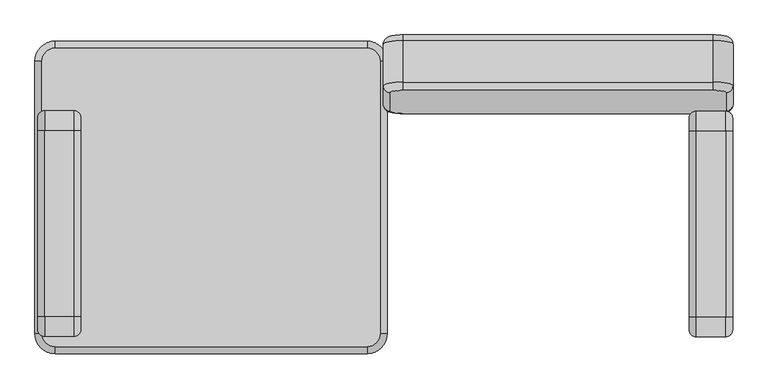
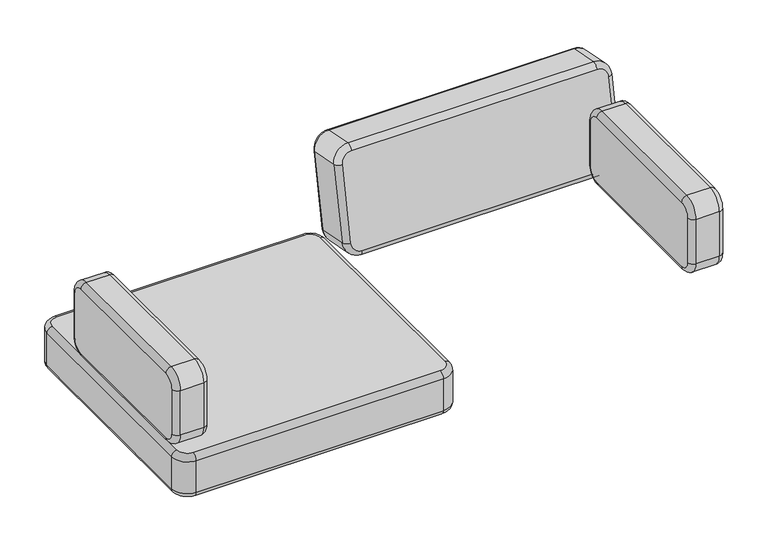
"""IFC4 building model written with IfcOpenShell, lengths in millimetres: furniture geometry, Fredericia - EJ220 Sofa 2 seater 86 - 2052 : Fredericia - EJ220 Sofa 2 seater 86 - 2052."""

from ifc_helpers import new_model, si_unit, point, frame, origin, place, context, project, spatial, circle_curve, ellipse_curve, trimmed, source, transform, mapped, element, save
from ifc_brep_helpers import plane_surface, cylinder_surface, revolved_surface, advanced_brep


def furniture_298e50f7(model_context):
    return source(origin(), model_context, "Body", "AdvancedBrep", [
        advanced_brep(
        [(-852.1555128, 67.7, 290.0), (-852.1555128, 743.0641303, 290.0), (-819.4876929, 775.7319503, 290.0), (-45.0, 775.7319503, 290.0), (-12.3321801, 743.0641303, 290.0), (-12.3321801, 67.7, 290.0), (-45.0, 35.0321801, 290.0), (-819.4876929, 35.0321801, 290.0), (-852.1555128, 743.0641303, 429.8211901), (-852.1555128, 67.7, 429.8211901), (-819.4876929, 35.0321801, 429.8211901), (-45.0, 35.0321801, 429.8211901), (-12.3321801, 67.7, 429.8211901), (-12.3321801, 743.0641303, 429.8211901), (-45.0, 775.7319503, 429.8211901), (-819.4876929, 775.7319503, 429.8211901), (-869.4876929, 743.0641303, 412.4890101), (-869.4876929, 743.0641303, 307.3273289), (-869.4876929, 67.7, 307.3273289), (-869.4876929, 67.7, 412.4890101), (-819.4876929, 17.7, 412.4890101), (-819.4876929, 17.7, 307.3273289), (-45.0, 17.7, 307.3273289), (-45.0, 17.7, 412.4890101), (5.0, 67.7, 412.4890101), (5.0, 67.7, 307.3273289), (5.0, 743.0641303, 307.3273289), (5.0, 743.0641303, 412.4890101), (-45.0, 793.0641303, 412.4890101), (-45.0, 793.0641303, 307.3273289), (-819.4876929, 793.0641303, 307.3273289), (-819.4876929, 793.0641303, 412.4890101)],
        [
            (0, 1),
            (1, 2, circle_curve(frame((-819.4876929, 743.0641303, 290.0), z_axis=(0.0, 0.0, -1.0), x_axis=(0.0, 1.0, 0.0)), 32.6678199)),
            (2, 3),
            (3, 4, circle_curve(frame((-45.0, 743.0641303, 290.0), z_axis=(0.0, 0.0, -1.0), x_axis=(1.0, 0.0, 0.0)), 32.6678199)),
            (4, 5),
            (5, 6, circle_curve(frame((-45.0, 67.7, 290.0), z_axis=(0.0, 0.0, -1.0), x_axis=(0.0, -1.0, 0.0)), 32.6678199)),
            (6, 7),
            (7, 0, circle_curve(frame((-819.4876929, 67.7, 290.0), z_axis=(0.0, 0.0, -1.0), x_axis=(-1.0, 0.0, 0.0)), 32.6678199)),
            (8, 9),
            (9, 10, circle_curve(frame((-819.4876929, 67.7, 429.8211901), z_axis=(0.0, 0.0, 1.0), x_axis=(-1.0, 0.0, 0.0)), 32.6678199)),
            (10, 11),
            (11, 12, circle_curve(frame((-45.0, 67.7, 429.8211901), z_axis=(0.0, 0.0, 1.0), x_axis=(0.0, -1.0, 0.0)), 32.6678199)),
            (12, 13),
            (13, 14, circle_curve(frame((-45.0, 743.0641303, 429.8211901), z_axis=(0.0, 0.0, 1.0), x_axis=(1.0, 0.0, 0.0)), 32.6678199)),
            (14, 15),
            (15, 8, circle_curve(frame((-819.4876929, 743.0641303, 429.8211901), z_axis=(0.0, 0.0, 1.0), x_axis=(0.0, 1.0, 0.0)), 32.6678199)),
            (16, 17),
            (17, 18),
            (18, 19),
            (19, 16),
            (20, 21),
            (21, 22),
            (22, 23),
            (23, 20),
            (24, 25),
            (25, 26),
            (26, 27),
            (27, 24),
            (28, 29),
            (29, 30),
            (30, 31),
            (31, 28),
            (17, 1, circle_curve(frame((-852.1555128, 743.0641303, 307.3273289), z_axis=(0.0, -1.0, 0.0), x_axis=(1.0, 0.0, 0.0)), 17.3321801)),
            (0, 18, circle_curve(frame((-852.1555128, 67.7, 307.3273289), z_axis=(0.0, 1.0, 0.0), x_axis=(1.0, 0.0, 0.0)), 17.3321801)),
            (19, 9, circle_curve(frame((-852.1555128, 67.7, 412.4890101), z_axis=(0.0, 1.0, 0.0), x_axis=(1.0, 0.0, 0.0)), 17.3321801)),
            (8, 16, circle_curve(frame((-852.1555128, 743.0641303, 412.4890101), z_axis=(0.0, -1.0, 0.0), x_axis=(1.0, 0.0, 0.0)), 17.3321801)),
            (21, 7, circle_curve(frame((-819.4876929, 35.0321801, 307.3273289), z_axis=(1.0, 0.0, 0.0), x_axis=(0.0, 1.0, 0.0)), 17.3321801)),
            (6, 22, circle_curve(frame((-45.0, 35.0321801, 307.3273289), z_axis=(-1.0, 0.0, 0.0), x_axis=(0.0, 1.0, 0.0)), 17.3321801)),
            (23, 11, circle_curve(frame((-45.0, 35.0321801, 412.4890101), z_axis=(-1.0, 0.0, 0.0), x_axis=(0.0, 1.0, 0.0)), 17.3321801)),
            (10, 20, circle_curve(frame((-819.4876929, 35.0321801, 412.4890101), z_axis=(1.0, 0.0, 0.0), x_axis=(0.0, 1.0, 0.0)), 17.3321801)),
            (25, 5, circle_curve(frame((-12.3321801, 67.7, 307.3273289), z_axis=(0.0, 1.0, 0.0), x_axis=(-1.0, 0.0, 0.0)), 17.3321801)),
            (4, 26, circle_curve(frame((-12.3321801, 743.0641303, 307.3273289), z_axis=(0.0, -1.0, 0.0), x_axis=(-1.0, 0.0, 0.0)), 17.3321801)),
            (27, 13, circle_curve(frame((-12.3321801, 743.0641303, 412.4890101), z_axis=(0.0, -1.0, 0.0), x_axis=(-1.0, 0.0, 0.0)), 17.3321801)),
            (12, 24, circle_curve(frame((-12.3321801, 67.7, 412.4890101), z_axis=(0.0, 1.0, 0.0), x_axis=(-1.0, 0.0, 0.0)), 17.3321801)),
            (29, 3, circle_curve(frame((-45.0, 775.7319503, 307.3273289), z_axis=(-1.0, 0.0, 0.0), x_axis=(0.0, -1.0, 0.0)), 17.3321801)),
            (2, 30, circle_curve(frame((-819.4876929, 775.7319503, 307.3273289), z_axis=(1.0, 0.0, 0.0), x_axis=(0.0, -1.0, 0.0)), 17.3321801)),
            (31, 15, circle_curve(frame((-819.4876929, 775.7319503, 412.4890101), z_axis=(1.0, 0.0, 0.0), x_axis=(0.0, -1.0, 0.0)), 17.3321801)),
            (14, 28, circle_curve(frame((-45.0, 775.7319503, 412.4890101), z_axis=(-1.0, 0.0, 0.0), x_axis=(0.0, -1.0, 0.0)), 17.3321801)),
            (17, 30, circle_curve(frame((-819.4876929, 743.0641303, 307.3273289), z_axis=(0.0, 0.0, -1.0), x_axis=(0.0, 1.0, 0.0)), 50.0)),
            (16, 31, circle_curve(frame((-819.4876929, 743.0641303, 412.4890101), z_axis=(0.0, 0.0, -1.0), x_axis=(0.0, 1.0, 0.0)), 50.0)),
            (21, 18, circle_curve(frame((-819.4876929, 67.7, 307.3273289), z_axis=(0.0, 0.0, -1.0), x_axis=(-1.0, 0.0, 0.0)), 50.0)),
            (20, 19, circle_curve(frame((-819.4876929, 67.7, 412.4890101), z_axis=(0.0, 0.0, -1.0), x_axis=(-1.0, 0.0, 0.0)), 50.0)),
            (25, 22, circle_curve(frame((-45.0, 67.7, 307.3273289), z_axis=(0.0, 0.0, -1.0), x_axis=(0.0, -1.0, 0.0)), 50.0)),
            (24, 23, circle_curve(frame((-45.0, 67.7, 412.4890101), z_axis=(0.0, 0.0, -1.0), x_axis=(0.0, -1.0, 0.0)), 50.0)),
            (29, 26, circle_curve(frame((-45.0, 743.0641303, 307.3273289), z_axis=(0.0, 0.0, -1.0), x_axis=(1.0, 0.0, 0.0)), 50.0)),
            (28, 27, circle_curve(frame((-45.0, 743.0641303, 412.4890101), z_axis=(0.0, 0.0, -1.0), x_axis=(1.0, 0.0, 0.0)), 50.0)),
        ],
        [
            plane_surface(frame((401.9530797, 37.7, 290.0), z_axis=(0.0, 0.0, -1.0), x_axis=(-1.0, 0.0, 0.0))),
            plane_surface(frame((401.9530797, 37.7, 429.8211901), z_axis=(0.0, 0.0, 1.0), x_axis=(1.0, 0.0, 0.0))),
            plane_surface(frame((-869.4876929, 743.0641303, 307.3273289), z_axis=(-1.0, 0.0, 0.0), x_axis=(0.0, -1.0, 0.0))),
            plane_surface(frame((-819.4876929, 17.7, 307.3273289), z_axis=(0.0, -1.0, 0.0), x_axis=(1.0, 0.0, 0.0))),
            plane_surface(frame((5.0, 67.7, 307.3273289), z_axis=(1.0, 0.0, 0.0), x_axis=(0.0, 1.0, 0.0))),
            plane_surface(frame((-45.0, 793.0641303, 307.3273289), z_axis=(0.0, 1.0, 0.0), x_axis=(-1.0, 0.0, 0.0))),
            cylinder_surface(frame((-852.1555128, 743.0641303, 307.3273289), z_axis=(0.0, 1.0, 0.0), x_axis=(1.0, 0.0, 0.0)), 17.3321801),
            cylinder_surface(frame((-852.1555128, 743.0641303, 412.4890101), z_axis=(0.0, 1.0, 0.0), x_axis=(1.0, 0.0, 0.0)), 17.3321801),
            cylinder_surface(frame((-819.4876929, 35.0321801, 307.3273289), z_axis=(-1.0, 0.0, 0.0), x_axis=(0.0, 1.0, 0.0)), 17.3321801),
            cylinder_surface(frame((-819.4876929, 35.0321801, 412.4890101), z_axis=(-1.0, 0.0, 0.0), x_axis=(0.0, 1.0, 0.0)), 17.3321801),
            cylinder_surface(frame((-12.3321801, 67.7, 307.3273289), z_axis=(0.0, -1.0, 0.0), x_axis=(-1.0, 0.0, 0.0)), 17.3321801),
            cylinder_surface(frame((-12.3321801, 67.7, 412.4890101), z_axis=(0.0, -1.0, 0.0), x_axis=(-1.0, 0.0, 0.0)), 17.3321801),
            cylinder_surface(frame((-45.0, 775.7319503, 307.3273289), z_axis=(1.0, 0.0, 0.0), x_axis=(0.0, -1.0, 0.0)), 17.3321801),
            cylinder_surface(frame((-45.0, 775.7319503, 412.4890101), z_axis=(1.0, 0.0, 0.0), x_axis=(0.0, -1.0, 0.0)), 17.3321801),
            revolved_surface(trimmed(ellipse_curve(frame((-819.4876929, 775.7319503, 307.3273289), z_axis=(1.0, 0.0, 0.0), x_axis=(0.0, -1.0, 0.0)), 17.3321801, 17.3321801), [point((-819.4876929, 775.7319503, 289.9951488))], [point((-819.4876929, 793.0641303, 307.3273289))], True, "CARTESIAN"), (-819.4876929, 743.0641303, 474.7169816), (0.0, 0.0, 1.0)),
            cylinder_surface(frame((-819.4876929, 743.0641303, 474.7169816), z_axis=(0.0, 0.0, 1.0), x_axis=(0.0, 1.0, 0.0)), 50.0),
            revolved_surface(trimmed(ellipse_curve(frame((-819.4876929, 775.7319503, 412.4890101), z_axis=(1.0, 0.0, 0.0), x_axis=(0.0, -1.0, 0.0)), 17.3321801, 17.3321801), [point((-819.4876929, 793.0641303, 412.4890101))], [point((-819.4876929, 775.7319503, 429.8211901))], True, "CARTESIAN"), (-819.4876929, 743.0641303, 474.7169816), (0.0, 0.0, 1.0)),
            revolved_surface(trimmed(ellipse_curve(frame((-852.1555128, 67.7, 307.3273289), z_axis=(0.0, 1.0, 0.0), x_axis=(1.0, 0.0, 0.0)), 17.3321801, 17.3321801), [point((-852.1555128, 67.7, 289.9951488))], [point((-869.4876929, 67.7, 307.3273289))], True, "CARTESIAN"), (-819.4876929, 67.7, 474.7169816), (0.0, 0.0, 1.0)),
            cylinder_surface(frame((-819.4876929, 67.7, 474.7169816), z_axis=(0.0, 0.0, 1.0), x_axis=(-1.0, 0.0, 0.0)), 50.0),
            revolved_surface(trimmed(ellipse_curve(frame((-852.1555128, 67.7, 412.4890101), z_axis=(0.0, 1.0, 0.0), x_axis=(1.0, 0.0, 0.0)), 17.3321801, 17.3321801), [point((-869.4876929, 67.7, 412.4890101))], [point((-852.1555128, 67.7, 429.8211901))], True, "CARTESIAN"), (-819.4876929, 67.7, 474.7169816), (0.0, 0.0, 1.0)),
            revolved_surface(trimmed(ellipse_curve(frame((-45.0, 35.0321801, 307.3273289), z_axis=(-1.0, 0.0, 0.0), x_axis=(0.0, 1.0, 0.0)), 17.3321801, 17.3321801), [point((-45.0, 35.0321801, 289.9951488))], [point((-45.0, 17.7, 307.3273289))], True, "CARTESIAN"), (-45.0, 67.7, 474.7169816), (0.0, 0.0, 1.0)),
            cylinder_surface(frame((-45.0, 67.7, 474.7169816), z_axis=(0.0, 0.0, 1.0), x_axis=(0.0, -1.0, 0.0)), 50.0),
            revolved_surface(trimmed(ellipse_curve(frame((-45.0, 35.0321801, 412.4890101), z_axis=(-1.0, 0.0, 0.0), x_axis=(0.0, 1.0, 0.0)), 17.3321801, 17.3321801), [point((-45.0, 17.7, 412.4890101))], [point((-45.0, 35.0321801, 429.8211901))], True, "CARTESIAN"), (-45.0, 67.7, 474.7169816), (0.0, 0.0, 1.0)),
            revolved_surface(trimmed(ellipse_curve(frame((-12.3321801, 743.0641303, 307.3273289), z_axis=(0.0, -1.0, 0.0), x_axis=(-1.0, 0.0, 0.0)), 17.3321801, 17.3321801), [point((-12.3321801, 743.0641303, 289.9951488))], [point((5.0, 743.0641303, 307.3273289))], True, "CARTESIAN"), (-45.0, 743.0641303, 474.7169816), (0.0, 0.0, 1.0)),
            cylinder_surface(frame((-45.0, 743.0641303, 474.7169816), z_axis=(0.0, 0.0, 1.0), x_axis=(1.0, 0.0, 0.0)), 50.0),
            revolved_surface(trimmed(ellipse_curve(frame((-12.3321801, 743.0641303, 412.4890101), z_axis=(0.0, -1.0, 0.0), x_axis=(-1.0, 0.0, 0.0)), 17.3321801, 17.3321801), [point((5.0, 743.0641303, 412.4890101))], [point((-12.3321801, 743.0641303, 429.8211901))], True, "CARTESIAN"), (-45.0, 743.0641303, 474.7169816), (0.0, 0.0, 1.0)),
        ],
        [
            (0, [[1, 2, 3, 4, 5, 6, 7, 8]]),
            (1, [[9, 10, 11, 12, 13, 14, 15, 16]]),
            (2, [[17, 18, 19, 20]]),
            (3, [[21, 22, 23, 24]]),
            (4, [[25, 26, 27, 28]]),
            (5, [[29, 30, 31, 32]]),
            (6, [[-18, 33, -1, 34]]),
            (7, [[-20, 35, -9, 36]]),
            (8, [[-22, 37, -7, 38]]),
            (9, [[-24, 39, -11, 40]]),
            (10, [[-26, 41, -5, 42]]),
            (11, [[-28, 43, -13, 44]]),
            (12, [[-30, 45, -3, 46]]),
            (13, [[-32, 47, -15, 48]]),
            (14, [[-33, 49, -46, -2]]),
            (15, [[-17, 50, -31, -49]]),
            (16, [[-36, -16, -47, -50]]),
            (17, [[-34, -8, -37, 51]]),
            (18, [[-19, -51, -21, 52]]),
            (19, [[-35, -52, -40, -10]]),
            (20, [[-38, -6, -41, 53]]),
            (21, [[-23, -53, -25, 54]]),
            (22, [[-39, -54, -44, -12]]),
            (23, [[-42, -4, -45, 55]]),
            (24, [[-27, -55, -29, 56]]),
            (25, [[-43, -56, -48, -14]]),
        ],
    ),
        advanced_brep(
        [(862.4140678, 569.5681487, 663.3026247), (862.4140678, 109.5681487, 663.3026247), (862.4140678, 76.9003288, 630.6348048), (862.4140678, 76.9003288, 484.0806659), (862.4140678, 109.5681487, 451.412846), (862.4140678, 569.5681487, 451.412846), (862.4140678, 602.2359687, 484.0806659), (862.4140678, 602.2359687, 630.6348048), (754.7501158, 109.5681487, 663.3026247), (754.7501158, 569.5681487, 663.3026247), (754.7501158, 602.2359687, 630.6348048), (754.7501158, 602.2359687, 484.0806659), (754.7501158, 569.5681487, 451.412846), (754.7501158, 109.5681487, 451.412846), (754.7501158, 76.9003288, 484.0806659), (754.7501158, 76.9003288, 630.6348048), (845.086739, 569.5681487, 680.6348048), (772.093458, 569.5681487, 680.6348048), (772.093458, 109.5681487, 680.6348048), (845.086739, 109.5681487, 680.6348048), (845.086739, 59.5681487, 630.6348048), (772.093458, 59.5681487, 630.6348048), (772.093458, 59.5681487, 484.0806659), (845.086739, 59.5681487, 484.0806659), (845.086739, 109.5681487, 434.0806659), (772.093458, 109.5681487, 434.0806659), (772.093458, 569.5681487, 434.0806659), (845.086739, 569.5681487, 434.0806659), (845.086739, 619.5681487, 484.0806659), (772.093458, 619.5681487, 484.0806659), (772.093458, 619.5681487, 630.6348048), (845.086739, 619.5681487, 630.6348048)],
        [
            (0, 1),
            (1, 2, circle_curve(frame((862.4140678, 109.5681487, 630.6348048), z_axis=(1.0, 0.0, 0.0), x_axis=(0.0, 0.0, 1.0)), 32.6678199)),
            (2, 3),
            (3, 4, circle_curve(frame((862.4140678, 109.5681487, 484.0806659), z_axis=(1.0, 0.0, 0.0), x_axis=(0.0, -1.0, 0.0)), 32.6678199)),
            (4, 5),
            (5, 6, circle_curve(frame((862.4140678, 569.5681487, 484.0806659), z_axis=(1.0, 0.0, 0.0), x_axis=(0.0, 0.0, -1.0)), 32.6678199)),
            (6, 7),
            (7, 0, circle_curve(frame((862.4140678, 569.5681487, 630.6348048), z_axis=(1.0, 0.0, 0.0), x_axis=(0.0, 1.0, 0.0)), 32.6678199)),
            (8, 9),
            (9, 10, circle_curve(frame((754.7501158, 569.5681487, 630.6348048), z_axis=(-1.0, 0.0, 0.0), x_axis=(0.0, 1.0, 0.0)), 32.6678199)),
            (10, 11),
            (11, 12, circle_curve(frame((754.7501158, 569.5681487, 484.0806659), z_axis=(-1.0, 0.0, 0.0), x_axis=(0.0, 0.0, -1.0)), 32.6678199)),
            (12, 13),
            (13, 14, circle_curve(frame((754.7501158, 109.5681487, 484.0806659), z_axis=(-1.0, 0.0, 0.0), x_axis=(0.0, -1.0, 0.0)), 32.6678199)),
            (14, 15),
            (15, 8, circle_curve(frame((754.7501158, 109.5681487, 630.6348048), z_axis=(-1.0, 0.0, 0.0), x_axis=(0.0, 0.0, 1.0)), 32.6678199)),
            (16, 17),
            (17, 18),
            (18, 19),
            (19, 16),
            (20, 21),
            (21, 22),
            (22, 23),
            (23, 20),
            (24, 25),
            (25, 26),
            (26, 27),
            (27, 24),
            (28, 29),
            (29, 30),
            (30, 31),
            (31, 28),
            (19, 1, circle_curve(frame((845.086739, 109.5681487, 663.3026247), z_axis=(0.0, 1.0, 0.0), x_axis=(0.0, 0.0, -1.0)), 17.3321801)),
            (0, 16, circle_curve(frame((845.086739, 569.5681487, 663.3026247), z_axis=(0.0, -1.0, 0.0), x_axis=(0.0, 0.0, -1.0)), 17.3321801)),
            (17, 9, circle_curve(frame((772.093458, 569.5681487, 663.3026247), z_axis=(0.0, -1.0, 0.0), x_axis=(0.0, 0.0, -1.0)), 17.3321801)),
            (8, 18, circle_curve(frame((772.093458, 109.5681487, 663.3026247), z_axis=(0.0, 1.0, 0.0), x_axis=(0.0, 0.0, -1.0)), 17.3321801)),
            (23, 3, circle_curve(frame((845.086739, 76.9003288, 484.0806659), z_axis=(0.0, 0.0, 1.0), x_axis=(0.0, 1.0, 0.0)), 17.3321801)),
            (2, 20, circle_curve(frame((845.086739, 76.9003288, 630.6348048), z_axis=(0.0, 0.0, -1.0), x_axis=(0.0, 1.0, 0.0)), 17.3321801)),
            (21, 15, circle_curve(frame((772.093458, 76.9003288, 630.6348048), z_axis=(0.0, 0.0, -1.0), x_axis=(0.0, 1.0, 0.0)), 17.3321801)),
            (14, 22, circle_curve(frame((772.093458, 76.9003288, 484.0806659), z_axis=(0.0, 0.0, 1.0), x_axis=(0.0, 1.0, 0.0)), 17.3321801)),
            (27, 5, circle_curve(frame((845.086739, 569.5681487, 451.412846), z_axis=(0.0, -1.0, 0.0), x_axis=(0.0, 0.0, 1.0)), 17.3321801)),
            (4, 24, circle_curve(frame((845.086739, 109.5681487, 451.412846), z_axis=(0.0, 1.0, 0.0), x_axis=(0.0, 0.0, 1.0)), 17.3321801)),
            (25, 13, circle_curve(frame((772.093458, 109.5681487, 451.412846), z_axis=(0.0, 1.0, 0.0), x_axis=(0.0, 0.0, 1.0)), 17.3321801)),
            (12, 26, circle_curve(frame((772.093458, 569.5681487, 451.412846), z_axis=(0.0, -1.0, 0.0), x_axis=(0.0, 0.0, 1.0)), 17.3321801)),
            (31, 7, circle_curve(frame((845.086739, 602.2359687, 630.6348048), z_axis=(0.0, 0.0, -1.0), x_axis=(0.0, -1.0, 0.0)), 17.3321801)),
            (6, 28, circle_curve(frame((845.086739, 602.2359687, 484.0806659), z_axis=(0.0, 0.0, 1.0), x_axis=(0.0, -1.0, 0.0)), 17.3321801)),
            (29, 11, circle_curve(frame((772.093458, 602.2359687, 484.0806659), z_axis=(0.0, 0.0, 1.0), x_axis=(0.0, -1.0, 0.0)), 17.3321801)),
            (10, 30, circle_curve(frame((772.093458, 602.2359687, 630.6348048), z_axis=(0.0, 0.0, -1.0), x_axis=(0.0, -1.0, 0.0)), 17.3321801)),
            (31, 16, circle_curve(frame((845.086739, 569.5681487, 630.6348048), z_axis=(1.0, 0.0, 0.0), x_axis=(0.0, 1.0, 0.0)), 50.0)),
            (30, 17, circle_curve(frame((772.093458, 569.5681487, 630.6348048), z_axis=(1.0, 0.0, 0.0), x_axis=(0.0, 1.0, 0.0)), 50.0)),
            (19, 20, circle_curve(frame((845.086739, 109.5681487, 630.6348048), z_axis=(1.0, 0.0, 0.0), x_axis=(0.0, 0.0, 1.0)), 50.0)),
            (18, 21, circle_curve(frame((772.093458, 109.5681487, 630.6348048), z_axis=(1.0, 0.0, 0.0), x_axis=(0.0, 0.0, 1.0)), 50.0)),
            (23, 24, circle_curve(frame((845.086739, 109.5681487, 484.0806659), z_axis=(1.0, 0.0, 0.0), x_axis=(0.0, -1.0, 0.0)), 50.0)),
            (22, 25, circle_curve(frame((772.093458, 109.5681487, 484.0806659), z_axis=(1.0, 0.0, 0.0), x_axis=(0.0, -1.0, 0.0)), 50.0)),
            (27, 28, circle_curve(frame((845.086739, 569.5681487, 484.0806659), z_axis=(1.0, 0.0, 0.0), x_axis=(0.0, 0.0, -1.0)), 50.0)),
            (26, 29, circle_curve(frame((772.093458, 569.5681487, 484.0806659), z_axis=(1.0, 0.0, 0.0), x_axis=(0.0, 0.0, -1.0)), 50.0)),
        ],
        [
            plane_surface(frame((862.4140678, 109.5681487, 600.6348048), z_axis=(1.0, 0.0, 0.0), x_axis=(0.0, 1.0, 0.0))),
            plane_surface(frame((754.7501158, 109.5681487, 600.6348048), z_axis=(-1.0, 0.0, 0.0), x_axis=(0.0, -1.0, 0.0))),
            plane_surface(frame((772.093458, 569.5681487, 680.6348048), z_axis=(0.0, 0.0, 1.0), x_axis=(0.0, -1.0, 0.0))),
            plane_surface(frame((772.093458, 59.5681487, 630.6348048), z_axis=(0.0, -1.0, 0.0), x_axis=(0.0, 0.0, -1.0))),
            plane_surface(frame((772.093458, 109.5681487, 434.0806659), z_axis=(0.0, 0.0, -1.0), x_axis=(0.0, 1.0, 0.0))),
            plane_surface(frame((772.093458, 619.5681487, 484.0806659), z_axis=(0.0, 1.0, 0.0), x_axis=(0.0, 0.0, 1.0))),
            cylinder_surface(frame((845.086739, 569.5681487, 663.3026247), z_axis=(0.0, 1.0, 0.0), x_axis=(0.0, 0.0, -1.0)), 17.3321801),
            cylinder_surface(frame((772.093458, 569.5681487, 663.3026247), z_axis=(0.0, 1.0, 0.0), x_axis=(0.0, 0.0, -1.0)), 17.3321801),
            cylinder_surface(frame((845.086739, 76.9003288, 630.6348048), z_axis=(0.0, 0.0, 1.0), x_axis=(0.0, 1.0, 0.0)), 17.3321801),
            cylinder_surface(frame((772.093458, 76.9003288, 630.6348048), z_axis=(0.0, 0.0, 1.0), x_axis=(0.0, 1.0, 0.0)), 17.3321801),
            cylinder_surface(frame((845.086739, 109.5681487, 451.412846), z_axis=(0.0, -1.0, 0.0), x_axis=(0.0, 0.0, 1.0)), 17.3321801),
            cylinder_surface(frame((772.093458, 109.5681487, 451.412846), z_axis=(0.0, -1.0, 0.0), x_axis=(0.0, 0.0, 1.0)), 17.3321801),
            cylinder_surface(frame((845.086739, 602.2359687, 484.0806659), z_axis=(0.0, 0.0, -1.0), x_axis=(0.0, -1.0, 0.0)), 17.3321801),
            cylinder_surface(frame((772.093458, 602.2359687, 484.0806659), z_axis=(0.0, 0.0, -1.0), x_axis=(0.0, -1.0, 0.0)), 17.3321801),
            revolved_surface(trimmed(ellipse_curve(frame((845.086739, 602.2359687, 630.6348048), z_axis=(0.0, 0.0, -1.0), x_axis=(0.0, -1.0, 0.0)), 17.3321801, 17.3321801), [point((845.086739, 619.5681487, 630.6348048))], [point((862.418919, 602.2359687, 630.6348048))], True, "CARTESIAN"), (677.6970862, 569.5681487, 630.6348048), (1.0, 0.0, 0.0)),
            cylinder_surface(frame((677.6970862, 569.5681487, 630.6348048), z_axis=(1.0, 0.0, 0.0), x_axis=(0.0, 1.0, 0.0)), 50.0),
            revolved_surface(trimmed(ellipse_curve(frame((772.093458, 602.2359687, 630.6348048), z_axis=(0.0, 0.0, -1.0), x_axis=(0.0, -1.0, 0.0)), 17.3321801, 17.3321801), [point((754.7612779, 602.2359687, 630.6348048))], [point((772.093458, 619.5681487, 630.6348048))], True, "CARTESIAN"), (677.6970862, 569.5681487, 630.6348048), (1.0, 0.0, 0.0)),
            revolved_surface(trimmed(ellipse_curve(frame((845.086739, 109.5681487, 663.3026247), z_axis=(0.0, 1.0, 0.0), x_axis=(0.0, 0.0, -1.0)), 17.3321801, 17.3321801), [point((845.086739, 109.5681487, 680.6348048))], [point((862.418919, 109.5681487, 663.3026247))], True, "CARTESIAN"), (677.6970862, 109.5681487, 630.6348048), (1.0, 0.0, 0.0)),
            cylinder_surface(frame((677.6970862, 109.5681487, 630.6348048), z_axis=(1.0, 0.0, 0.0), x_axis=(0.0, 0.0, 1.0)), 50.0),
            revolved_surface(trimmed(ellipse_curve(frame((772.093458, 109.5681487, 663.3026247), z_axis=(0.0, 1.0, 0.0), x_axis=(0.0, 0.0, -1.0)), 17.3321801, 17.3321801), [point((754.7612779, 109.5681487, 663.3026247))], [point((772.093458, 109.5681487, 680.6348048))], True, "CARTESIAN"), (677.6970862, 109.5681487, 630.6348048), (1.0, 0.0, 0.0)),
            revolved_surface(trimmed(ellipse_curve(frame((845.086739, 76.9003288, 484.0806659), z_axis=(0.0, 0.0, 1.0), x_axis=(0.0, 1.0, 0.0)), 17.3321801, 17.3321801), [point((845.086739, 59.5681487, 484.0806659))], [point((862.418919, 76.9003288, 484.0806659))], True, "CARTESIAN"), (677.6970862, 109.5681487, 484.0806659), (1.0, 0.0, 0.0)),
            cylinder_surface(frame((677.6970862, 109.5681487, 484.0806659), z_axis=(1.0, 0.0, 0.0), x_axis=(0.0, -1.0, 0.0)), 50.0),
            revolved_surface(trimmed(ellipse_curve(frame((772.093458, 76.9003288, 484.0806659), z_axis=(0.0, 0.0, 1.0), x_axis=(0.0, 1.0, 0.0)), 17.3321801, 17.3321801), [point((754.7612779, 76.9003288, 484.0806659))], [point((772.093458, 59.5681487, 484.0806659))], True, "CARTESIAN"), (677.6970862, 109.5681487, 484.0806659), (1.0, 0.0, 0.0)),
            revolved_surface(trimmed(ellipse_curve(frame((845.086739, 569.5681487, 451.412846), z_axis=(0.0, -1.0, 0.0), x_axis=(0.0, 0.0, 1.0)), 17.3321801, 17.3321801), [point((845.086739, 569.5681487, 434.0806659))], [point((862.418919, 569.5681487, 451.412846))], True, "CARTESIAN"), (677.6970862, 569.5681487, 484.0806659), (1.0, 0.0, 0.0)),
            cylinder_surface(frame((677.6970862, 569.5681487, 484.0806659), z_axis=(1.0, 0.0, 0.0), x_axis=(0.0, 0.0, -1.0)), 50.0),
            revolved_surface(trimmed(ellipse_curve(frame((772.093458, 569.5681487, 451.412846), z_axis=(0.0, -1.0, 0.0), x_axis=(0.0, 0.0, 1.0)), 17.3321801, 17.3321801), [point((754.7612779, 569.5681487, 451.412846))], [point((772.093458, 569.5681487, 434.0806659))], True, "CARTESIAN"), (677.6970862, 569.5681487, 484.0806659), (1.0, 0.0, 0.0)),
        ],
        [
            (0, [[1, 2, 3, 4, 5, 6, 7, 8]]),
            (1, [[9, 10, 11, 12, 13, 14, 15, 16]]),
            (2, [[17, 18, 19, 20]]),
            (3, [[21, 22, 23, 24]]),
            (4, [[25, 26, 27, 28]]),
            (5, [[29, 30, 31, 32]]),
            (6, [[-20, 33, -1, 34]]),
            (7, [[-18, 35, -9, 36]]),
            (8, [[-24, 37, -3, 38]]),
            (9, [[-22, 39, -15, 40]]),
            (10, [[-28, 41, -5, 42]]),
            (11, [[-26, 43, -13, 44]]),
            (12, [[-32, 45, -7, 46]]),
            (13, [[-30, 47, -11, 48]]),
            (14, [[-34, -8, -45, 49]]),
            (15, [[-17, -49, -31, 50]]),
            (16, [[-35, -50, -48, -10]]),
            (17, [[-33, 51, -38, -2]]),
            (18, [[-19, 52, -21, -51]]),
            (19, [[-36, -16, -39, -52]]),
            (20, [[-37, 53, -42, -4]]),
            (21, [[-23, 54, -25, -53]]),
            (22, [[-40, -14, -43, -54]]),
            (23, [[-41, 55, -46, -6]]),
            (24, [[-27, 56, -29, -55]]),
            (25, [[-44, -12, -47, -56]]),
        ],
    ),
        advanced_brep(
        [(-862.9185911, 110.2227341, 660.8530588), (-862.9185911, 570.2227341, 660.8530588), (-862.9185911, 602.8905541, 628.1852389), (-862.9185911, 602.8905541, 481.6311001), (-862.9185911, 570.2227341, 448.9632801), (-862.9185911, 110.2227341, 448.9632801), (-862.9185911, 77.5549142, 481.6311001), (-862.9185911, 77.5549142, 628.1852389), (-755.2546391, 570.2227341, 660.8530588), (-755.2546391, 110.2227341, 660.8530588), (-755.2546391, 77.5549142, 628.1852389), (-755.2546391, 77.5549142, 481.6311001), (-755.2546391, 110.2227341, 448.9632801), (-755.2546391, 570.2227341, 448.9632801), (-755.2546391, 602.8905541, 481.6311001), (-755.2546391, 602.8905541, 628.1852389), (-772.5979813, 570.2227341, 678.1852389), (-845.5912622, 570.2227341, 678.1852389), (-845.5912622, 110.2227341, 678.1852389), (-772.5979813, 110.2227341, 678.1852389), (-772.5979813, 60.2227341, 628.1852389), (-845.5912622, 60.2227341, 628.1852389), (-845.5912622, 60.2227341, 481.6311001), (-772.5979813, 60.2227341, 481.6311001), (-772.5979813, 110.2227341, 431.6311001), (-845.5912622, 110.2227341, 431.6311001), (-845.5912622, 570.2227341, 431.6311001), (-772.5979813, 570.2227341, 431.6311001), (-772.5979813, 620.2227341, 481.6311001), (-845.5912622, 620.2227341, 481.6311001), (-845.5912622, 620.2227341, 628.1852389), (-772.5979813, 620.2227341, 628.1852389)],
        [
            (0, 1),
            (1, 2, circle_curve(frame((-862.9185911, 570.2227341, 628.1852389), z_axis=(-1.0, 0.0, 0.0), x_axis=(0.0, 1.0, 0.0)), 32.6678199)),
            (2, 3),
            (3, 4, circle_curve(frame((-862.9185911, 570.2227341, 481.6311001), z_axis=(-1.0, 0.0, 0.0), x_axis=(0.0, 0.0, -1.0)), 32.6678199)),
            (4, 5),
            (5, 6, circle_curve(frame((-862.9185911, 110.2227341, 481.6311001), z_axis=(-1.0, 0.0, 0.0), x_axis=(0.0, -1.0, 0.0)), 32.6678199)),
            (6, 7),
            (7, 0, circle_curve(frame((-862.9185911, 110.2227341, 628.1852389), z_axis=(-1.0, 0.0, 0.0), x_axis=(0.0, 0.0, 1.0)), 32.6678199)),
            (8, 9),
            (9, 10, circle_curve(frame((-755.2546391, 110.2227341, 628.1852389), z_axis=(1.0, 0.0, 0.0), x_axis=(0.0, 0.0, 1.0)), 32.6678199)),
            (10, 11),
            (11, 12, circle_curve(frame((-755.2546391, 110.2227341, 481.6311001), z_axis=(1.0, 0.0, 0.0), x_axis=(0.0, -1.0, 0.0)), 32.6678199)),
            (12, 13),
            (13, 14, circle_curve(frame((-755.2546391, 570.2227341, 481.6311001), z_axis=(1.0, 0.0, 0.0), x_axis=(0.0, 0.0, -1.0)), 32.6678199)),
            (14, 15),
            (15, 8, circle_curve(frame((-755.2546391, 570.2227341, 628.1852389), z_axis=(1.0, 0.0, 0.0), x_axis=(0.0, 1.0, 0.0)), 32.6678199)),
            (16, 17),
            (17, 18),
            (18, 19),
            (19, 16),
            (20, 21),
            (21, 22),
            (22, 23),
            (23, 20),
            (24, 25),
            (25, 26),
            (26, 27),
            (27, 24),
            (28, 29),
            (29, 30),
            (30, 31),
            (31, 28),
            (17, 1, circle_curve(frame((-845.5912622, 570.2227341, 660.8530588), z_axis=(0.0, -1.0, 0.0), x_axis=(0.0, 0.0, -1.0)), 17.3321801)),
            (0, 18, circle_curve(frame((-845.5912622, 110.2227341, 660.8530588), z_axis=(0.0, 1.0, 0.0), x_axis=(0.0, 0.0, -1.0)), 17.3321801)),
            (19, 9, circle_curve(frame((-772.5979813, 110.2227341, 660.8530588), z_axis=(0.0, 1.0, 0.0), x_axis=(0.0, 0.0, -1.0)), 17.3321801)),
            (8, 16, circle_curve(frame((-772.5979813, 570.2227341, 660.8530588), z_axis=(0.0, -1.0, 0.0), x_axis=(0.0, 0.0, -1.0)), 17.3321801)),
            (21, 7, circle_curve(frame((-845.5912622, 77.5549142, 628.1852389), z_axis=(0.0, 0.0, -1.0), x_axis=(0.0, 1.0, 0.0)), 17.3321801)),
            (6, 22, circle_curve(frame((-845.5912622, 77.5549142, 481.6311001), z_axis=(0.0, 0.0, 1.0), x_axis=(0.0, 1.0, 0.0)), 17.3321801)),
            (23, 11, circle_curve(frame((-772.5979813, 77.5549142, 481.6311001), z_axis=(0.0, 0.0, 1.0), x_axis=(0.0, 1.0, 0.0)), 17.3321801)),
            (10, 20, circle_curve(frame((-772.5979813, 77.5549142, 628.1852389), z_axis=(0.0, 0.0, -1.0), x_axis=(0.0, 1.0, 0.0)), 17.3321801)),
            (25, 5, circle_curve(frame((-845.5912622, 110.2227341, 448.9632801), z_axis=(0.0, 1.0, 0.0), x_axis=(0.0, 0.0, 1.0)), 17.3321801)),
            (4, 26, circle_curve(frame((-845.5912622, 570.2227341, 448.9632801), z_axis=(0.0, -1.0, 0.0), x_axis=(0.0, 0.0, 1.0)), 17.3321801)),
            (27, 13, circle_curve(frame((-772.5979813, 570.2227341, 448.9632801), z_axis=(0.0, -1.0, 0.0), x_axis=(0.0, 0.0, 1.0)), 17.3321801)),
            (12, 24, circle_curve(frame((-772.5979813, 110.2227341, 448.9632801), z_axis=(0.0, 1.0, 0.0), x_axis=(0.0, 0.0, 1.0)), 17.3321801)),
            (29, 3, circle_curve(frame((-845.5912622, 602.8905541, 481.6311001), z_axis=(0.0, 0.0, 1.0), x_axis=(0.0, -1.0, 0.0)), 17.3321801)),
            (2, 30, circle_curve(frame((-845.5912622, 602.8905541, 628.1852389), z_axis=(0.0, 0.0, -1.0), x_axis=(0.0, -1.0, 0.0)), 17.3321801)),
            (31, 15, circle_curve(frame((-772.5979813, 602.8905541, 628.1852389), z_axis=(0.0, 0.0, -1.0), x_axis=(0.0, -1.0, 0.0)), 17.3321801)),
            (14, 28, circle_curve(frame((-772.5979813, 602.8905541, 481.6311001), z_axis=(0.0, 0.0, 1.0), x_axis=(0.0, -1.0, 0.0)), 17.3321801)),
            (17, 30, circle_curve(frame((-845.5912622, 570.2227341, 628.1852389), z_axis=(-1.0, 0.0, 0.0), x_axis=(0.0, 1.0, 0.0)), 50.0)),
            (16, 31, circle_curve(frame((-772.5979813, 570.2227341, 628.1852389), z_axis=(-1.0, 0.0, 0.0), x_axis=(0.0, 1.0, 0.0)), 50.0)),
            (21, 18, circle_curve(frame((-845.5912622, 110.2227341, 628.1852389), z_axis=(-1.0, 0.0, 0.0), x_axis=(0.0, 0.0, 1.0)), 50.0)),
            (20, 19, circle_curve(frame((-772.5979813, 110.2227341, 628.1852389), z_axis=(-1.0, 0.0, 0.0), x_axis=(0.0, 0.0, 1.0)), 50.0)),
            (25, 22, circle_curve(frame((-845.5912622, 110.2227341, 481.6311001), z_axis=(-1.0, 0.0, 0.0), x_axis=(0.0, -1.0, 0.0)), 50.0)),
            (24, 23, circle_curve(frame((-772.5979813, 110.2227341, 481.6311001), z_axis=(-1.0, 0.0, 0.0), x_axis=(0.0, -1.0, 0.0)), 50.0)),
            (29, 26, circle_curve(frame((-845.5912622, 570.2227341, 481.6311001), z_axis=(-1.0, 0.0, 0.0), x_axis=(0.0, 0.0, -1.0)), 50.0)),
            (28, 27, circle_curve(frame((-772.5979813, 570.2227341, 481.6311001), z_axis=(-1.0, 0.0, 0.0), x_axis=(0.0, 0.0, -1.0)), 50.0)),
        ],
        [
            plane_surface(frame((-862.9185911, 80.2227341, 34.6780204), z_axis=(-1.0, 0.0, 0.0), x_axis=(0.0, 0.0, 1.0))),
            plane_surface(frame((-755.2546391, 80.2227341, 34.6780204), z_axis=(1.0, 0.0, 0.0), x_axis=(0.0, 0.0, -1.0))),
            plane_surface(frame((-845.5912622, 570.2227341, 678.1852389), z_axis=(0.0, 0.0, 1.0), x_axis=(0.0, -1.0, 0.0))),
            plane_surface(frame((-845.5912622, 60.2227341, 628.1852389), z_axis=(0.0, -1.0, 0.0), x_axis=(0.0, 0.0, -1.0))),
            plane_surface(frame((-845.5912622, 110.2227341, 431.6311001), z_axis=(0.0, 0.0, -1.0), x_axis=(0.0, 1.0, 0.0))),
            plane_surface(frame((-845.5912622, 620.2227341, 481.6311001), z_axis=(0.0, 1.0, 0.0), x_axis=(0.0, 0.0, 1.0))),
            cylinder_surface(frame((-845.5912622, 570.2227341, 660.8530588), z_axis=(0.0, 1.0, 0.0), x_axis=(0.0, 0.0, -1.0)), 17.3321801),
            cylinder_surface(frame((-772.5979813, 570.2227341, 660.8530588), z_axis=(0.0, 1.0, 0.0), x_axis=(0.0, 0.0, -1.0)), 17.3321801),
            cylinder_surface(frame((-845.5912622, 77.5549142, 628.1852389), z_axis=(0.0, 0.0, 1.0), x_axis=(0.0, 1.0, 0.0)), 17.3321801),
            cylinder_surface(frame((-772.5979813, 77.5549142, 628.1852389), z_axis=(0.0, 0.0, 1.0), x_axis=(0.0, 1.0, 0.0)), 17.3321801),
            cylinder_surface(frame((-845.5912622, 110.2227341, 448.9632801), z_axis=(0.0, -1.0, 0.0), x_axis=(0.0, 0.0, 1.0)), 17.3321801),
            cylinder_surface(frame((-772.5979813, 110.2227341, 448.9632801), z_axis=(0.0, -1.0, 0.0), x_axis=(0.0, 0.0, 1.0)), 17.3321801),
            cylinder_surface(frame((-845.5912622, 602.8905541, 481.6311001), z_axis=(0.0, 0.0, -1.0), x_axis=(0.0, -1.0, 0.0)), 17.3321801),
            cylinder_surface(frame((-772.5979813, 602.8905541, 481.6311001), z_axis=(0.0, 0.0, -1.0), x_axis=(0.0, -1.0, 0.0)), 17.3321801),
            revolved_surface(trimmed(ellipse_curve(frame((-845.5912622, 602.8905541, 628.1852389), z_axis=(0.0, 0.0, -1.0), x_axis=(0.0, -1.0, 0.0)), 17.3321801, 17.3321801), [point((-862.9234423, 602.8905541, 628.1852389))], [point((-845.5912622, 620.2227341, 628.1852389))], True, "CARTESIAN"), (-678.2016095, 570.2227341, 628.1852389), (1.0, 0.0, 0.0)),
            cylinder_surface(frame((-678.2016095, 570.2227341, 628.1852389), z_axis=(1.0, 0.0, 0.0), x_axis=(0.0, 1.0, 0.0)), 50.0),
            revolved_surface(trimmed(ellipse_curve(frame((-772.5979813, 602.8905541, 628.1852389), z_axis=(0.0, 0.0, -1.0), x_axis=(0.0, -1.0, 0.0)), 17.3321801, 17.3321801), [point((-772.5979813, 620.2227341, 628.1852389))], [point((-755.2658012, 602.8905541, 628.1852389))], True, "CARTESIAN"), (-678.2016095, 570.2227341, 628.1852389), (1.0, 0.0, 0.0)),
            revolved_surface(trimmed(ellipse_curve(frame((-845.5912622, 110.2227341, 660.8530588), z_axis=(0.0, 1.0, 0.0), x_axis=(0.0, 0.0, -1.0)), 17.3321801, 17.3321801), [point((-862.9234423, 110.2227341, 660.8530588))], [point((-845.5912622, 110.2227341, 678.1852389))], True, "CARTESIAN"), (-678.2016095, 110.2227341, 628.1852389), (1.0, 0.0, 0.0)),
            cylinder_surface(frame((-678.2016095, 110.2227341, 628.1852389), z_axis=(1.0, 0.0, 0.0), x_axis=(0.0, 0.0, 1.0)), 50.0),
            revolved_surface(trimmed(ellipse_curve(frame((-772.5979813, 110.2227341, 660.8530588), z_axis=(0.0, 1.0, 0.0), x_axis=(0.0, 0.0, -1.0)), 17.3321801, 17.3321801), [point((-772.5979813, 110.2227341, 678.1852389))], [point((-755.2658012, 110.2227341, 660.8530588))], True, "CARTESIAN"), (-678.2016095, 110.2227341, 628.1852389), (1.0, 0.0, 0.0)),
            revolved_surface(trimmed(ellipse_curve(frame((-845.5912622, 77.5549142, 481.6311001), z_axis=(0.0, 0.0, 1.0), x_axis=(0.0, 1.0, 0.0)), 17.3321801, 17.3321801), [point((-862.9234423, 77.5549142, 481.6311001))], [point((-845.5912622, 60.2227341, 481.6311001))], True, "CARTESIAN"), (-678.2016095, 110.2227341, 481.6311001), (1.0, 0.0, 0.0)),
            cylinder_surface(frame((-678.2016095, 110.2227341, 481.6311001), z_axis=(1.0, 0.0, 0.0), x_axis=(0.0, -1.0, 0.0)), 50.0),
            revolved_surface(trimmed(ellipse_curve(frame((-772.5979813, 77.5549142, 481.6311001), z_axis=(0.0, 0.0, 1.0), x_axis=(0.0, 1.0, 0.0)), 17.3321801, 17.3321801), [point((-772.5979813, 60.2227341, 481.6311001))], [point((-755.2658012, 77.5549142, 481.6311001))], True, "CARTESIAN"), (-678.2016095, 110.2227341, 481.6311001), (1.0, 0.0, 0.0)),
            revolved_surface(trimmed(ellipse_curve(frame((-845.5912622, 570.2227341, 448.9632801), z_axis=(0.0, -1.0, 0.0), x_axis=(0.0, 0.0, 1.0)), 17.3321801, 17.3321801), [point((-862.9234423, 570.2227341, 448.9632801))], [point((-845.5912622, 570.2227341, 431.6311001))], True, "CARTESIAN"), (-678.2016095, 570.2227341, 481.6311001), (1.0, 0.0, 0.0)),
            cylinder_surface(frame((-678.2016095, 570.2227341, 481.6311001), z_axis=(1.0, 0.0, 0.0), x_axis=(0.0, 0.0, -1.0)), 50.0),
            revolved_surface(trimmed(ellipse_curve(frame((-772.5979813, 570.2227341, 448.9632801), z_axis=(0.0, -1.0, 0.0), x_axis=(0.0, 0.0, 1.0)), 17.3321801, 17.3321801), [point((-772.5979813, 570.2227341, 431.6311001))], [point((-755.2658012, 570.2227341, 448.9632801))], True, "CARTESIAN"), (-678.2016095, 570.2227341, 481.6311001), (1.0, 0.0, 0.0)),
        ],
        [
            (0, [[1, 2, 3, 4, 5, 6, 7, 8]]),
            (1, [[9, 10, 11, 12, 13, 14, 15, 16]]),
            (2, [[17, 18, 19, 20]]),
            (3, [[21, 22, 23, 24]]),
            (4, [[25, 26, 27, 28]]),
            (5, [[29, 30, 31, 32]]),
            (6, [[-18, 33, -1, 34]]),
            (7, [[-20, 35, -9, 36]]),
            (8, [[-22, 37, -7, 38]]),
            (9, [[-24, 39, -11, 40]]),
            (10, [[-26, 41, -5, 42]]),
            (11, [[-28, 43, -13, 44]]),
            (12, [[-30, 45, -3, 46]]),
            (13, [[-32, 47, -15, 48]]),
            (14, [[-33, 49, -46, -2]]),
            (15, [[-17, 50, -31, -49]]),
            (16, [[-36, -16, -47, -50]]),
            (17, [[-34, -8, -37, 51]]),
            (18, [[-19, -51, -21, 52]]),
            (19, [[-35, -52, -40, -10]]),
            (20, [[-38, -6, -41, 53]]),
            (21, [[-23, -53, -25, 54]]),
            (22, [[-39, -54, -44, -12]]),
            (23, [[-42, -4, -45, 55]]),
            (24, [[-27, -55, -29, 56]]),
            (25, [[-43, -56, -48, -14]]),
        ],
    ),
        advanced_brep(
        [(846.2998936, 619.8100699, 478.8361951), (846.2998936, 664.9135782, 710.8736296), (813.6320736, 671.1468921, 742.9412497), (45.0, 671.1468921, 742.9412497), (12.3321801, 664.9135782, 710.8736296), (12.3321801, 619.8100699, 478.8361951), (45.0, 613.576756, 446.7685751), (813.6320736, 613.576756, 446.7685751), (846.2998936, 802.1658592, 684.1944888), (846.2998936, 757.062351, 452.1570543), (813.6320736, 750.8290371, 420.0894343), (45.0, 750.8290371, 420.0894343), (12.3321801, 757.062351, 452.1570543), (12.3321801, 802.1658592, 684.1944888), (45.0, 808.3991731, 716.2621088), (813.6320736, 808.3991731, 716.2621088), (863.6320736, 636.819047, 475.5299849), (863.6320736, 740.0486118, 455.4641902), (863.6320736, 785.1521201, 687.5016246), (863.6320736, 681.9225552, 707.5674194), (813.6320736, 691.463005, 756.6487785), (813.6320736, 794.6925699, 736.5829838), (45.0, 794.6925699, 736.5829838), (45.0, 691.463005, 756.6487785), (-5.0, 681.9225552, 707.5674194), (-5.0, 785.1521201, 687.5016246), (-5.0, 740.0486118, 455.4641902), (-5.0, 636.819047, 475.5299849), (45.0, 627.2785972, 426.4486258), (45.0, 730.5081621, 406.382831), (813.6320736, 730.5081621, 406.382831), (813.6320736, 627.2785972, 426.4486258)],
        [
            (0, 1),
            (1, 2, circle_curve(frame((813.6320736, 664.9135782, 710.8736296), z_axis=(0.0, -0.9816271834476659, 0.1908089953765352), x_axis=(1.0, 0.0, 0.0)), 32.6678199)),
            (2, 3),
            (3, 4, circle_curve(frame((45.0, 664.9135782, 710.8736296), z_axis=(0.0, -0.9816271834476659, 0.1908089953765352), x_axis=(0.0, 0.1908089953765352, 0.9816271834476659)), 32.6678199)),
            (4, 5),
            (5, 6, circle_curve(frame((45.0, 619.8100699, 478.8361951), z_axis=(0.0, -0.9816271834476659, 0.1908089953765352), x_axis=(-1.0, 0.0, 0.0)), 32.6678199)),
            (6, 7),
            (7, 0, circle_curve(frame((813.6320736, 619.8100699, 478.8361951), z_axis=(0.0, -0.9816271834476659, 0.1908089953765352), x_axis=(0.0, -0.1908089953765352, -0.9816271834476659)), 32.6678199)),
            (8, 9),
            (9, 10, circle_curve(frame((813.6320736, 757.062351, 452.1570543), z_axis=(0.0, 0.9816271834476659, -0.1908089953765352), x_axis=(0.0, -0.1908089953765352, -0.9816271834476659)), 32.6678199)),
            (10, 11),
            (11, 12, circle_curve(frame((45.0, 757.062351, 452.1570543), z_axis=(0.0, 0.9816271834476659, -0.1908089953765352), x_axis=(-1.0, 0.0, 0.0)), 32.6678199)),
            (12, 13),
            (13, 14, circle_curve(frame((45.0, 802.1658592, 684.1944888), z_axis=(0.0, 0.9816271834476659, -0.1908089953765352), x_axis=(0.0, 0.1908089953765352, 0.9816271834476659)), 32.6678199)),
            (14, 15),
            (15, 8, circle_curve(frame((813.6320736, 802.1658592, 684.1944888), z_axis=(0.0, 0.9816271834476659, -0.1908089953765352), x_axis=(1.0, 0.0, 0.0)), 32.6678199)),
            (16, 17),
            (17, 18),
            (18, 19),
            (19, 16),
            (20, 21),
            (21, 22),
            (22, 23),
            (23, 20),
            (24, 25),
            (25, 26),
            (26, 27),
            (27, 24),
            (28, 29),
            (29, 30),
            (30, 31),
            (31, 28),
            (19, 1, circle_curve(frame((846.2998936, 681.9225552, 707.5674194), z_axis=(0.0, -0.19080899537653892, -0.9816271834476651), x_axis=(-1.0, 0.0, 0.0)), 17.3321801)),
            (0, 16, circle_curve(frame((846.2998936, 636.819047, 475.5299849), z_axis=(0.0, 0.19080899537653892, 0.9816271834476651), x_axis=(-1.0, 0.0, 0.0)), 17.3321801)),
            (17, 9, circle_curve(frame((846.2998936, 740.0486118, 455.4641902), z_axis=(0.0, 0.19080899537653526, 0.9816271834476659), x_axis=(-1.0, 0.0, 0.0)), 17.3321801)),
            (8, 18, circle_curve(frame((846.2998936, 785.1521201, 687.5016246), z_axis=(0.0, -0.19080899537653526, -0.9816271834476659), x_axis=(-1.0, 0.0, 0.0)), 17.3321801)),
            (23, 3, circle_curve(frame((45.0, 688.1558691, 739.6350394), z_axis=(1.0, 0.0, 0.0), x_axis=(0.0, -0.1908089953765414, -0.9816271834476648)), 17.3321801)),
            (2, 20, circle_curve(frame((813.6320736, 688.1558691, 739.6350394), z_axis=(-1.0, 0.0, 0.0), x_axis=(0.0, -0.1908089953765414, -0.9816271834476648)), 17.3321801)),
            (21, 15, circle_curve(frame((813.6320736, 791.385434, 719.5692447), z_axis=(-1.0, 0.0, 0.0), x_axis=(0.0, -0.19080899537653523, -0.9816271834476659)), 17.3321801)),
            (14, 22, circle_curve(frame((45.0, 791.385434, 719.5692447), z_axis=(1.0, 0.0, 0.0), x_axis=(0.0, -0.19080899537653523, -0.9816271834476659)), 17.3321801)),
            (27, 5, circle_curve(frame((12.3321801, 636.819047, 475.5299849), z_axis=(0.0, 0.19080899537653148, 0.9816271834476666), x_axis=(1.0, 0.0, 0.0)), 17.3321801)),
            (4, 24, circle_curve(frame((12.3321801, 681.9225552, 707.5674194), z_axis=(0.0, -0.19080899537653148, -0.9816271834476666), x_axis=(1.0, 0.0, 0.0)), 17.3321801)),
            (25, 13, circle_curve(frame((12.3321801, 785.1521201, 687.5016246), z_axis=(0.0, -0.19080899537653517, -0.9816271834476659), x_axis=(1.0, 0.0, 0.0)), 17.3321801)),
            (12, 26, circle_curve(frame((12.3321801, 740.0486118, 455.4641902), z_axis=(0.0, 0.19080899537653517, 0.9816271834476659), x_axis=(1.0, 0.0, 0.0)), 17.3321801)),
            (31, 7, circle_curve(frame((813.6320736, 630.585733, 443.4623649), z_axis=(-1.0, 0.0, 0.0), x_axis=(0.0, 0.19080899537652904, 0.9816271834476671)), 17.3321801)),
            (6, 28, circle_curve(frame((45.0, 630.585733, 443.4623649), z_axis=(1.0, 0.0, 0.0), x_axis=(0.0, 0.19080899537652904, 0.9816271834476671)), 17.3321801)),
            (29, 11, circle_curve(frame((45.0, 733.8152979, 423.3965701), z_axis=(1.0, 0.0, 0.0), x_axis=(0.0, 0.1908089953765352, 0.9816271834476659)), 17.3321801)),
            (10, 30, circle_curve(frame((813.6320736, 733.8152979, 423.3965701), z_axis=(-1.0, 0.0, 0.0), x_axis=(0.0, 0.1908089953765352, 0.9816271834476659)), 17.3321801)),
            (31, 16, circle_curve(frame((813.6320736, 636.819047, 475.5299849), z_axis=(0.0, -0.9816271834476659, 0.1908089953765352), x_axis=(0.0, -0.1908089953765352, -0.9816271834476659)), 50.0)),
            (30, 17, circle_curve(frame((813.6320736, 740.0486118, 455.4641902), z_axis=(0.0, -0.9816271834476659, 0.1908089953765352), x_axis=(0.0, -0.1908089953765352, -0.9816271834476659)), 50.0)),
            (19, 20, circle_curve(frame((813.6320736, 681.9225552, 707.5674194), z_axis=(0.0, -0.9816271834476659, 0.1908089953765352), x_axis=(1.0, 0.0, 0.0)), 50.0)),
            (18, 21, circle_curve(frame((813.6320736, 785.1521201, 687.5016246), z_axis=(0.0, -0.9816271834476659, 0.1908089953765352), x_axis=(1.0, 0.0, 0.0)), 50.0)),
            (23, 24, circle_curve(frame((45.0, 681.9225552, 707.5674194), z_axis=(0.0, -0.9816271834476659, 0.1908089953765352), x_axis=(0.0, 0.1908089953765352, 0.9816271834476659)), 50.0)),
            (22, 25, circle_curve(frame((45.0, 785.1521201, 687.5016246), z_axis=(0.0, -0.9816271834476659, 0.1908089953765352), x_axis=(0.0, 0.1908089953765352, 0.9816271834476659)), 50.0)),
            (27, 28, circle_curve(frame((45.0, 636.819047, 475.5299849), z_axis=(0.0, -0.9816271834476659, 0.1908089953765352), x_axis=(-1.0, 0.0, 0.0)), 50.0)),
            (26, 29, circle_curve(frame((45.0, 740.0486118, 455.4641902), z_axis=(0.0, -0.9816271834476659, 0.1908089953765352), x_axis=(-1.0, 0.0, 0.0)), 50.0)),
        ],
        [
            plane_surface(frame((783.6320736, 664.9135782, 710.8736296), z_axis=(0.0, -0.9816271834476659, 0.19080899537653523), x_axis=(0.0, -0.19080899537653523, -0.9816271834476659))),
            plane_surface(frame((783.6320736, 802.1658592, 684.1944888), z_axis=(0.0, 0.9816271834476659, -0.19080899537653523), x_axis=(0.0, 0.19080899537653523, 0.9816271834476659))),
            plane_surface(frame((863.6320736, 740.0486118, 455.4641902), z_axis=(1.0, 0.0, 0.0), x_axis=(0.0, 0.19080899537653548, 0.9816271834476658))),
            plane_surface(frame((813.6320736, 794.6925699, 736.5829838), z_axis=(0.0, 0.19080899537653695, 0.9816271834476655), x_axis=(-1.0, 0.0, 0.0))),
            plane_surface(frame((-5.0, 785.1521201, 687.5016246), z_axis=(-1.0000000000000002, 0.0, 0.0), x_axis=(0.0, -0.19080899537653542, -0.9816271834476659))),
            plane_surface(frame((45.0, 730.5081621, 406.382831), z_axis=(0.0, -0.19080899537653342, -0.9816271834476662), x_axis=(1.0, 0.0, 0.0))),
            cylinder_surface(frame((846.2998936, 636.819047, 475.5299849), z_axis=(0.0, -0.19080899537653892, -0.9816271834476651), x_axis=(-1.0, 0.0, 0.0)), 17.3321801),
            cylinder_surface(frame((846.2998936, 740.0486118, 455.4641902), z_axis=(0.0, -0.19080899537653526, -0.9816271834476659), x_axis=(-1.0, 0.0, 0.0)), 17.3321801),
            cylinder_surface(frame((813.6320736, 688.1558691, 739.6350394), z_axis=(1.0000000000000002, 0.0, 0.0), x_axis=(0.0, -0.1908089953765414, -0.9816271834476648)), 17.3321801),
            cylinder_surface(frame((813.6320736, 791.385434, 719.5692447), z_axis=(1.0, 0.0, 0.0), x_axis=(0.0, -0.19080899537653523, -0.9816271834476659)), 17.3321801),
            cylinder_surface(frame((12.3321801, 681.9225552, 707.5674194), z_axis=(0.0, 0.19080899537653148, 0.9816271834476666), x_axis=(1.0, 0.0, 0.0)), 17.3321801),
            cylinder_surface(frame((12.3321801, 785.1521201, 687.5016246), z_axis=(0.0, 0.19080899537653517, 0.9816271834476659), x_axis=(1.0, 0.0, 0.0)), 17.3321801),
            cylinder_surface(frame((45.0, 630.585733, 443.4623649), z_axis=(-1.0000000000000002, 0.0, 0.0), x_axis=(0.0, 0.19080899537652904, 0.9816271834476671)), 17.3321801),
            cylinder_surface(frame((45.0, 733.8152979, 423.3965701), z_axis=(-1.0, 0.0, 0.0), x_axis=(0.0, 0.1908089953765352, 0.9816271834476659)), 17.3321801),
            revolved_surface(trimmed(ellipse_curve(frame((813.6320736, 630.585733, 443.4623649), z_axis=(-1.0000000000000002, 0.0, 0.0), x_axis=(0.0, 0.19080899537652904, 0.9816271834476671)), 17.3321801, 17.3321801), [point((813.6320736, 627.2785972, 426.4486258))], [point((813.6320736, 613.5719939, 446.7695007))], True, "CARTESIAN"), (813.6320736, 801.1332803, 443.5905334), (0.0, -0.9816271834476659, 0.1908089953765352)),
            cylinder_surface(frame((813.6320736, 801.1332803, 443.5905334), z_axis=(0.0, -0.9816271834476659, 0.1908089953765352), x_axis=(0.0, -0.1908089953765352, -0.9816271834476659)), 50.0),
            revolved_surface(trimmed(ellipse_curve(frame((813.6320736, 733.8152979, 423.3965701), z_axis=(-1.0000000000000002, 0.0, 0.0), x_axis=(0.0, 0.1908089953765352, 0.9816271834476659)), 17.3321801, 17.3321801), [point((813.6320736, 750.8290371, 420.0894343))], [point((813.6320736, 730.5081621, 406.382831))], True, "CARTESIAN"), (813.6320736, 801.1332803, 443.5905334), (0.0, -0.9816271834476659, 0.1908089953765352)),
            revolved_surface(trimmed(ellipse_curve(frame((846.2998936, 681.9225552, 707.5674194), z_axis=(0.0, -0.19080899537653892, -0.9816271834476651), x_axis=(-1.0, 0.0, 0.0)), 17.3321801, 17.3321801), [point((863.6320736, 681.9225552, 707.5674194))], [point((846.2998936, 664.9088161, 710.8745552))], True, "CARTESIAN"), (813.6320736, 846.2367886, 675.6279679), (0.0, -0.9816271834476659, 0.1908089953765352)),
            cylinder_surface(frame((813.6320736, 846.2367886, 675.6279679), z_axis=(0.0, -0.9816271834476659, 0.1908089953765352), x_axis=(1.0, 0.0, 0.0)), 50.0),
            revolved_surface(trimmed(ellipse_curve(frame((846.2998936, 785.1521201, 687.5016246), z_axis=(0.0, -0.19080899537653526, -0.9816271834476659), x_axis=(-1.0, 0.0, 0.0)), 17.3321801, 17.3321801), [point((846.2998936, 802.1658592, 684.1944888))], [point((863.6320736, 785.1521201, 687.5016246))], True, "CARTESIAN"), (813.6320736, 846.2367886, 675.6279679), (0.0, -0.9816271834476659, 0.1908089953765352)),
            revolved_surface(trimmed(ellipse_curve(frame((45.0, 688.1558691, 739.6350394), z_axis=(1.0000000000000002, 0.0, 0.0), x_axis=(0.0, -0.19080899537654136, -0.9816271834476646)), 17.3321801, 17.3321801), [point((45.0, 691.463005, 756.6487785))], [point((45.0, 671.14213, 742.9421753))], True, "CARTESIAN"), (45.0, 846.2367886, 675.6279679), (0.0, -0.9816271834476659, 0.1908089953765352)),
            cylinder_surface(frame((45.0, 846.2367886, 675.6279679), z_axis=(0.0, -0.9816271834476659, 0.1908089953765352), x_axis=(0.0, 0.1908089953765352, 0.9816271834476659)), 50.0),
            revolved_surface(trimmed(ellipse_curve(frame((45.0, 791.385434, 719.5692447), z_axis=(1.0000000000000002, 0.0, 0.0), x_axis=(0.0, -0.19080899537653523, -0.9816271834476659)), 17.3321801, 17.3321801), [point((45.0, 808.3991731, 716.2621088))], [point((45.0, 794.6925699, 736.5829838))], True, "CARTESIAN"), (45.0, 846.2367886, 675.6279679), (0.0, -0.9816271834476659, 0.1908089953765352)),
            revolved_surface(trimmed(ellipse_curve(frame((12.3321801, 636.819047, 475.5299849), z_axis=(0.0, 0.19080899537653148, 0.9816271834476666), x_axis=(1.0, 0.0, 0.0)), 17.3321801, 17.3321801), [point((-5.0, 636.819047, 475.5299849))], [point((12.3321801, 619.8053078, 478.8371208))], True, "CARTESIAN"), (45.0, 801.1332803, 443.5905334), (0.0, -0.9816271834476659, 0.1908089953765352)),
            cylinder_surface(frame((45.0, 801.1332803, 443.5905334), z_axis=(0.0, -0.9816271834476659, 0.1908089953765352), x_axis=(-1.0, 0.0, 0.0)), 50.0),
            revolved_surface(trimmed(ellipse_curve(frame((12.3321801, 740.0486118, 455.4641902), z_axis=(0.0, 0.19080899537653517, 0.9816271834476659), x_axis=(1.0, 0.0, 0.0)), 17.3321801, 17.3321801), [point((12.3321801, 757.062351, 452.1570543))], [point((-5.0, 740.0486118, 455.4641902))], True, "CARTESIAN"), (45.0, 801.1332803, 443.5905334), (0.0, -0.9816271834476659, 0.1908089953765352)),
        ],
        [
            (0, [[1, 2, 3, 4, 5, 6, 7, 8]]),
            (1, [[9, 10, 11, 12, 13, 14, 15, 16]]),
            (2, [[17, 18, 19, 20]]),
            (3, [[21, 22, 23, 24]]),
            (4, [[25, 26, 27, 28]]),
            (5, [[29, 30, 31, 32]]),
            (6, [[-20, 33, -1, 34]]),
            (7, [[-18, 35, -9, 36]]),
            (8, [[-24, 37, -3, 38]]),
            (9, [[-22, 39, -15, 40]]),
            (10, [[-28, 41, -5, 42]]),
            (11, [[-26, 43, -13, 44]]),
            (12, [[-32, 45, -7, 46]]),
            (13, [[-30, 47, -11, 48]]),
            (14, [[-34, -8, -45, 49]]),
            (15, [[-17, -49, -31, 50]]),
            (16, [[-35, -50, -48, -10]]),
            (17, [[-33, 51, -38, -2]]),
            (18, [[-19, 52, -21, -51]]),
            (19, [[-36, -16, -39, -52]]),
            (20, [[-37, 53, -42, -4]]),
            (21, [[-23, 54, -25, -53]]),
            (22, [[-40, -14, -43, -54]]),
            (23, [[-41, 55, -46, -6]]),
            (24, [[-27, 56, -29, -55]]),
            (25, [[-44, -12, -47, -56]]),
        ],
    ),
    ])


if __name__ == "__main__":
    model = new_model("IFC4")
    model_context = context("Model", 3, world=origin())
    ifc_project = project(units=[si_unit("LENGTHUNIT", "METRE", prefix="MILLI")], contexts=[model_context])
    site = spatial("IfcSite", under=ifc_project)
    building = spatial("IfcBuilding", under=site)
    placement = place(None, origin())
    furniture_shape = furniture_298e50f7(model_context)
    element("IfcFurniture", 1, ObjectType="Fredericia - EJ220 Sofa 2 seater 86 - 2052 : Fredericia - EJ220 Sofa 2 seater 86 - 2052", at=placement, inside=building, context=model_context, shape_type="MappedRepresentation", body=[
        mapped(furniture_shape, transform((0.0, 0.0, 0.0), x_axis=(1.0, 0.0, 0.0), y_axis=(0.0, 1.0, 0.0), z_axis=(0.0, 0.0, 1.0))),
    ])
    save(model, "model.ifc")
